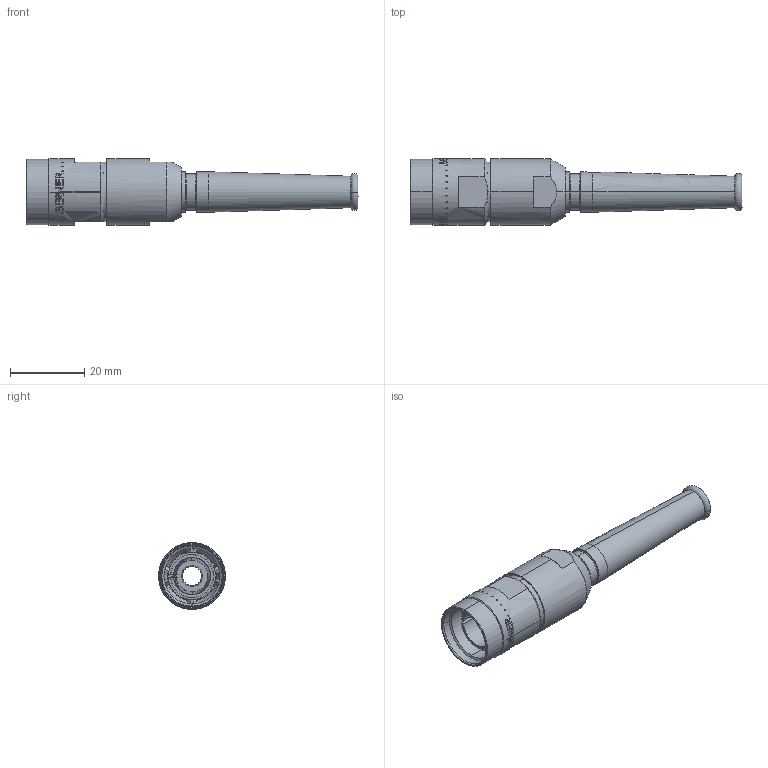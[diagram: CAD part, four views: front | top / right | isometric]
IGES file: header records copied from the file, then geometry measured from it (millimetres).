
Start section: SolidWorks IGES file using analytic representation for surfaces
Global section: file name: C:\Users\dmt\Desktop\CMA RA7-55.IGS; native system: SolidWorks 2014; preprocessor: SolidWorks 2014; author: dmt; date: 151130.100217; units: millimetre
Bounding box: 89.5 x 18 x 18 mm (x, y, z)
Surface area: 6487.1 mm2 (no closed solid volume)
Topology: 0 solids, 0 shells, 205 faces, 2315 edges, 2315 vertices
Faces by surface type: bspline 116, revolution 89
